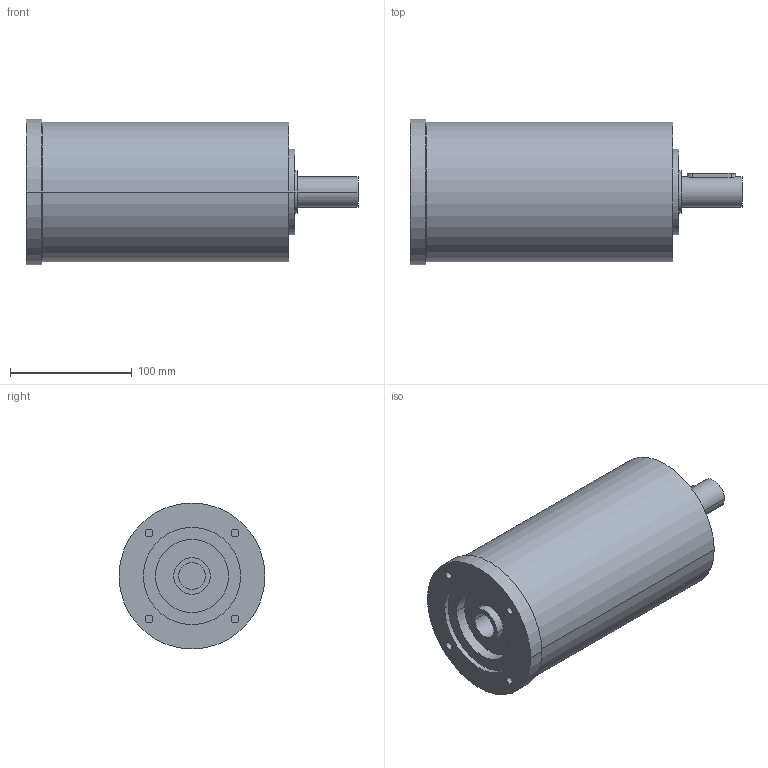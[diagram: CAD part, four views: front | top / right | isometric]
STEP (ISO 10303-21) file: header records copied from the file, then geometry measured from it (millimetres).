
FILE_DESCRIPTION(('CoCreate Modeling STEP Export'),'2;1');
FILE_NAME('GPR125_ig-48-64-80-100-140-196-245-343_25_B14_22_P05.stp','2014-08-26T14:22:05',(''),(''),'CoCreate Modeling STEP processor for AP214 (Solid Model)','CoCreate Modeling 16.00C 25-Feb-2009 (C) Parametric Technology GmbH','');
FILE_SCHEMA(('AUTOMOTIVE_DESIGN { 1 0 10303 214 1 1 1 1 }'));
Length unit declared in the file: millimetre
Products named in the file (2): GPR125_ig-48-64-80-100-140-196-245-343_25_B14_22_P05
Assembly tree (1 placements, depth 2):
  GPR125_ig-48-64-80-100-140-196-245-343_25_B14_22_P05
    GPR125_ig-48-64-80-100-140-196-245-343_25_B14_22_P05
Bounding box: 273 x 120 x 120 mm (x, y, z)
Volume: 2232068.8 mm3; surface area: 118265.8 mm2
Topology: 1 solids, 1 shells, 75 faces, 188 edges, 134 vertices
Faces by surface type: cylinder 46, plane 25, cone 4
Entity records: 1915 total; most frequent: ORIENTED_EDGE 372, CARTESIAN_POINT 355, DIRECTION 250, EDGE_CURVE 186, VERTEX_POINT 134, AXIS2_PLACEMENT_3D 97, EDGE_LOOP 96, FACE_OUTER_BOUND 75
